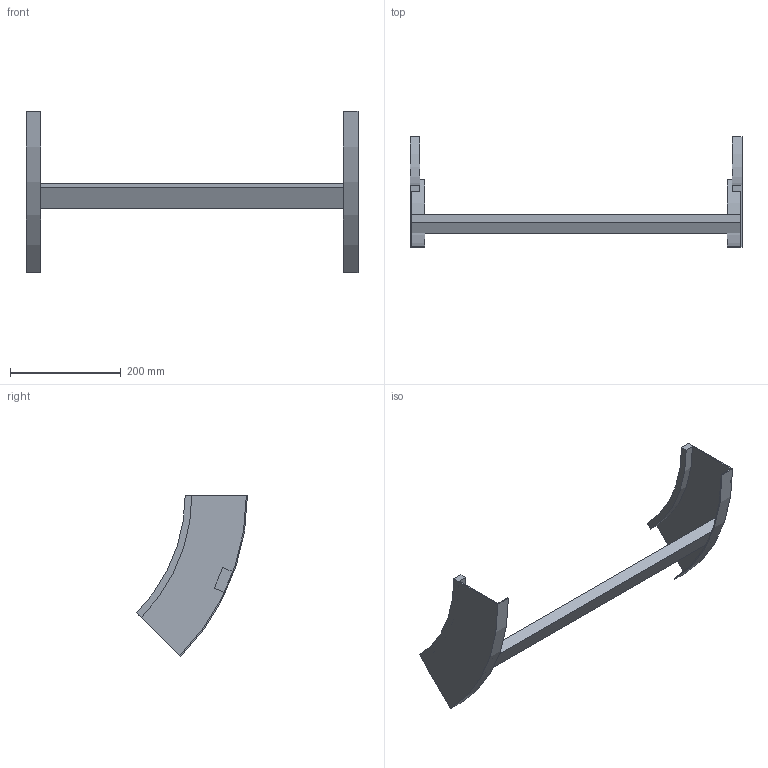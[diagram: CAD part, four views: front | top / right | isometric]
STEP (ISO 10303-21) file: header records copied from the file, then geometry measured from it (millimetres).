
FILE_DESCRIPTION (( 'STEP AP214' ), '1' );
FILE_NAME ('B2X31B3J600XX.step', '2025-03-20T10:07:57', ( '' ), ( '' ), 'SwSTEP 2.0', 'SolidWorks 2023', '' );
FILE_SCHEMA (( 'AUTOMOTIVE_DESIGN' ));
Length unit declared in the file: millimetre
Products named in the file (3): B2_LONGH.SALITA_45°_H112.5_R300; TRAVERSINO_600; B2X31B3J600XX
Assembly tree (3 placements, depth 2):
  B2X31B3J600XX
    B2_LONGH.SALITA_45°_H112.5_R300  x2
    TRAVERSINO_600
Bounding box: 600 x 200.37 x 291.68 mm (x, y, z)
Volume: 733275.7 mm3; surface area: 251451.9 mm2
Topology: 3 solids, 3 shells, 26 faces, 60 edges, 40 vertices
Faces by surface type: plane 18, cylinder 8
Entity records: 544 total; most frequent: DIRECTION 88, CARTESIAN_POINT 82, ORIENTED_EDGE 72, EDGE_CURVE 36, AXIS2_PLACEMENT_3D 30, VECTOR 28, LINE 28, VERTEX_POINT 24
